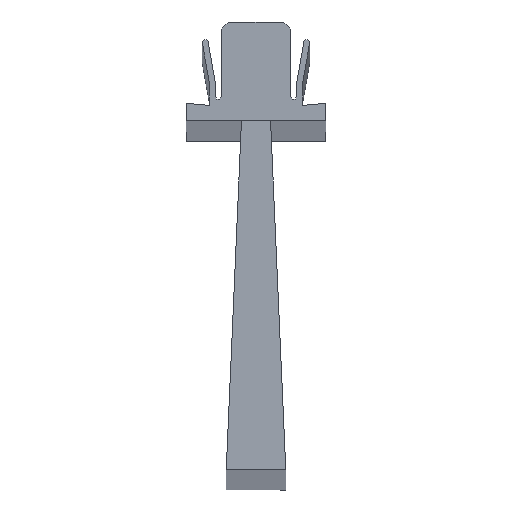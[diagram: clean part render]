
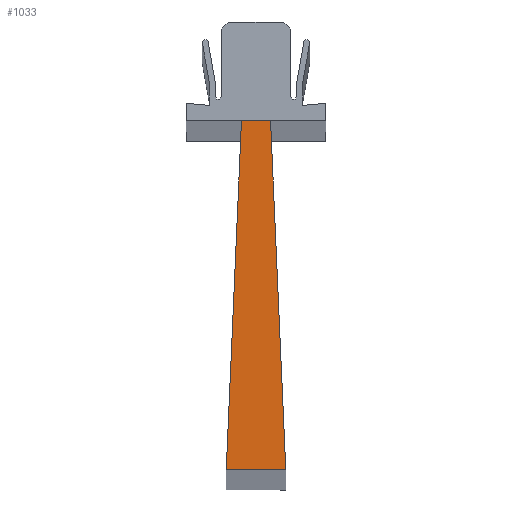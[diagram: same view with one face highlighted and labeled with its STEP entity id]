
A CAD part, top view. The second image highlights one B-rep face of the part: STEP entity #1033.
In plain terms, the highlighted planar face has unit normal (0, 0, 1).
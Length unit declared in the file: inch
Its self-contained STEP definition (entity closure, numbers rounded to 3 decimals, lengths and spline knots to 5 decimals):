
#931=CARTESIAN_POINT('',(0.04921,0.,19.685));
#932=VERTEX_POINT('',#931);
#933=CARTESIAN_POINT('',(0.10078,-1.18106,19.685));
#934=VERTEX_POINT('',#933);
#935=CARTESIAN_POINT('',(0.04921,0.,19.685));
#936=DIRECTION('',(0.044,-0.999,0.0));
#937=VECTOR('',#936,1.18219);
#938=LINE('',#935,#937);
#939=EDGE_CURVE('',#932,#934,#938,.T.);
#962=CARTESIAN_POINT('',(-0.10078,-1.18106,19.685));
#963=VERTEX_POINT('',#962);
#964=CARTESIAN_POINT('',(0.10078,-1.18106,19.685));
#965=DIRECTION('',(-1.0,0.0,0.0));
#966=VECTOR('',#965,0.20156);
#967=LINE('',#964,#966);
#968=EDGE_CURVE('',#934,#963,#967,.T.);
#986=CARTESIAN_POINT('',(-0.04921,0.,19.685));
#987=VERTEX_POINT('',#986);
#988=CARTESIAN_POINT('',(-0.10078,-1.18106,19.685));
#989=DIRECTION('',(0.044,0.999,0.0));
#990=VECTOR('',#989,1.18219);
#991=LINE('',#988,#990);
#992=EDGE_CURVE('',#963,#987,#991,.T.);
#1010=CARTESIAN_POINT('',(-0.04921,0.,19.685));
#1011=DIRECTION('',(1.0,0.0,0.0));
#1012=VECTOR('',#1011,0.09843);
#1013=LINE('',#1010,#1012);
#1014=EDGE_CURVE('',#987,#932,#1013,.T.);
#1022=CARTESIAN_POINT('',(0.,-0.61339,19.685));
#1023=DIRECTION('',(0.0,0.0,1.0));
#1024=DIRECTION('',(1.0,0.0,0.0));
#1025=AXIS2_PLACEMENT_3D('',#1022,#1023,#1024);
#1026=PLANE('',#1025);
#1027=ORIENTED_EDGE('',*,*,#939,.F.);
#1028=ORIENTED_EDGE('',*,*,#1014,.F.);
#1029=ORIENTED_EDGE('',*,*,#992,.F.);
#1030=ORIENTED_EDGE('',*,*,#968,.F.);
#1031=EDGE_LOOP('',(#1027,#1028,#1029,#1030));
#1032=FACE_OUTER_BOUND('',#1031,.T.);
#1033=ADVANCED_FACE('',(#1032),#1026,.T.);
